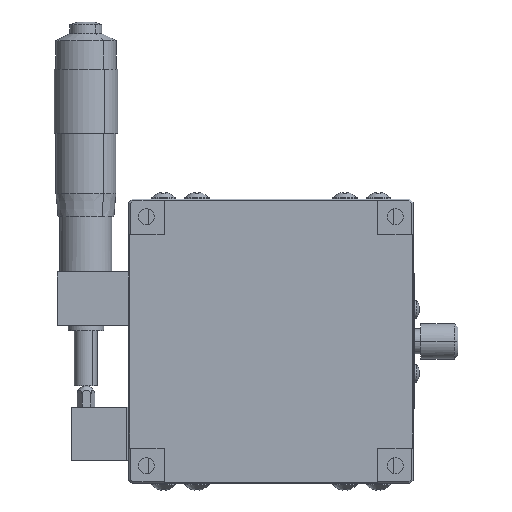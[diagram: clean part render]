
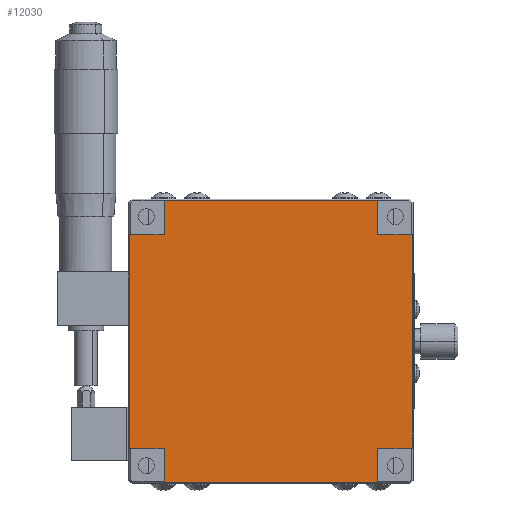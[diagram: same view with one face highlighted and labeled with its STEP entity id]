
A CAD part, front view. The second image highlights one B-rep face of the part: STEP entity #12030.
In plain terms, the highlighted planar face has unit normal (0, -1, 0).
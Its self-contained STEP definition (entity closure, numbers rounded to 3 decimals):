
#3245 = CARTESIAN_POINT ( 'NONE',  ( -20.54, 34.35, 30. ) ) ;
#3247 = CARTESIAN_POINT ( 'NONE',  ( -20.54, 34.35, 39.7 ) ) ;
#3248 = CARTESIAN_POINT ( 'NONE',  ( -20.54, 34.35, -30. ) ) ;
#3250 = CARTESIAN_POINT ( 'NONE',  ( -80.54, 34.35, -39.7 ) ) ;
#3251 = CARTESIAN_POINT ( 'NONE',  ( -20.54, 34.35, -39.7 ) ) ;
#3252 = CARTESIAN_POINT ( 'NONE',  ( -10.84, 34.35, -30. ) ) ;
#3253 = CARTESIAN_POINT ( 'NONE',  ( -10.84, 34.35, 30. ) ) ;
#3254 = CARTESIAN_POINT ( 'NONE',  ( -90.24, 34.35, -30. ) ) ;
#3256 = CARTESIAN_POINT ( 'NONE',  ( -90.24, 34.35, 30. ) ) ;
#3257 = CARTESIAN_POINT ( 'NONE',  ( -80.54, 34.35, 39.7 ) ) ;
#3260 = CARTESIAN_POINT ( 'NONE',  ( -80.54, 34.35, 30. ) ) ;
#3263 = CARTESIAN_POINT ( 'NONE',  ( -80.54, 34.35, -30. ) ) ;
#7106 = VERTEX_POINT ( 'NONE', #3245 ) ;
#7108 = VERTEX_POINT ( 'NONE', #3247 ) ;
#7109 = VERTEX_POINT ( 'NONE', #3248 ) ;
#7111 = VERTEX_POINT ( 'NONE', #3250 ) ;
#7112 = VERTEX_POINT ( 'NONE', #3251 ) ;
#7113 = VERTEX_POINT ( 'NONE', #3252 ) ;
#7114 = VERTEX_POINT ( 'NONE', #3253 ) ;
#7115 = VERTEX_POINT ( 'NONE', #3254 ) ;
#7117 = VERTEX_POINT ( 'NONE', #3256 ) ;
#7118 = VERTEX_POINT ( 'NONE', #3257 ) ;
#7121 = VERTEX_POINT ( 'NONE', #3260 ) ;
#7124 = VERTEX_POINT ( 'NONE', #3263 ) ;
#7469 = ORIENTED_EDGE ( 'NONE', *, *, #12124, .T. ) ;
#7470 = ORIENTED_EDGE ( 'NONE', *, *, #12126, .T. ) ;
#7471 = ORIENTED_EDGE ( 'NONE', *, *, #12094, .T. ) ;
#7472 = ORIENTED_EDGE ( 'NONE', *, *, #12098, .T. ) ;
#7473 = ORIENTED_EDGE ( 'NONE', *, *, #12103, .T. ) ;
#7474 = ORIENTED_EDGE ( 'NONE', *, *, #12109, .T. ) ;
#7475 = ORIENTED_EDGE ( 'NONE', *, *, #12111, .T. ) ;
#7476 = ORIENTED_EDGE ( 'NONE', *, *, #12114, .T. ) ;
#7477 = ORIENTED_EDGE ( 'NONE', *, *, #12117, .T. ) ;
#7478 = ORIENTED_EDGE ( 'NONE', *, *, #12118, .T. ) ;
#7479 = ORIENTED_EDGE ( 'NONE', *, *, #12120, .T. ) ;
#7480 = ORIENTED_EDGE ( 'NONE', *, *, #12123, .T. ) ;
#8016 = EDGE_LOOP ( 'NONE', ( #7469, #7470, #7471, #7472, #7473, #7474, #7475, #7476, #7477, #7478, #7479, #7480 ) ) ;
#9743 = AXIS2_PLACEMENT_3D ( 'NONE', #15227, #15238, #15239 ) ;
#12030 = ADVANCED_FACE ( 'NONE', ( #15235 ), #15236, .T. ) ;
#12094 = EDGE_CURVE ( 'NONE', #7118, #7121, #15338, .T. ) ;
#12098 = EDGE_CURVE ( 'NONE', #7121, #7117, #15367, .T. ) ;
#12103 = EDGE_CURVE ( 'NONE', #7117, #7115, #15359, .T. ) ;
#12109 = EDGE_CURVE ( 'NONE', #7115, #7124, #15371, .T. ) ;
#12111 = EDGE_CURVE ( 'NONE', #7124, #7111, #15385, .T. ) ;
#12114 = EDGE_CURVE ( 'NONE', #7111, #7112, #15377, .T. ) ;
#12117 = EDGE_CURVE ( 'NONE', #7112, #7109, #15389, .T. ) ;
#12118 = EDGE_CURVE ( 'NONE', #7109, #7113, #15403, .T. ) ;
#12120 = EDGE_CURVE ( 'NONE', #7113, #7114, #15395, .T. ) ;
#12123 = EDGE_CURVE ( 'NONE', #7114, #7106, #15407, .T. ) ;
#12124 = EDGE_CURVE ( 'NONE', #7106, #7108, #15419, .T. ) ;
#12126 = EDGE_CURVE ( 'NONE', #7108, #7118, #15425, .T. ) ;
#14543 = VECTOR ( 'NONE', #15364, 1000. ) ;
#14548 = VECTOR ( 'NONE', #15375, 1000. ) ;
#14549 = VECTOR ( 'NONE', #15369, 1000. ) ;
#14553 = VECTOR ( 'NONE', #15384, 1000. ) ;
#14554 = VECTOR ( 'NONE', #15393, 1000. ) ;
#14555 = VECTOR ( 'NONE', #15387, 1000. ) ;
#14559 = VECTOR ( 'NONE', #15402, 1000. ) ;
#14560 = VECTOR ( 'NONE', #15411, 1000. ) ;
#14561 = VECTOR ( 'NONE', #15405, 1000. ) ;
#14565 = VECTOR ( 'NONE', #15418, 1000. ) ;
#14567 = VECTOR ( 'NONE', #15421, 1000. ) ;
#14569 = VECTOR ( 'NONE', #15427, 1000. ) ;
#15227 = CARTESIAN_POINT ( 'NONE',  ( -80.54, 34.35, 48.508 ) ) ;
#15235 = FACE_OUTER_BOUND ( 'NONE', #8016, .T. ) ;
#15236 = PLANE ( 'NONE',  #9743 ) ;
#15238 = DIRECTION ( 'NONE',  ( 0., -1., 0. ) ) ;
#15239 = DIRECTION ( 'NONE',  ( 0., 0., -1. ) ) ;
#15338 = LINE ( 'NONE', #15362, #14543 ) ;
#15359 = LINE ( 'NONE', #15374, #14548 ) ;
#15362 = CARTESIAN_POINT ( 'NONE',  ( -80.54, 34.35, 48.508 ) ) ;
#15364 = DIRECTION ( 'NONE',  ( 0., 0., -1. ) ) ;
#15367 = LINE ( 'NONE', #15368, #14549 ) ;
#15368 = CARTESIAN_POINT ( 'NONE',  ( -80.54, 34.35, 30. ) ) ;
#15369 = DIRECTION ( 'NONE',  ( -1., 0., 0. ) ) ;
#15371 = LINE ( 'NONE', #15383, #14553 ) ;
#15374 = CARTESIAN_POINT ( 'NONE',  ( -90.24, 34.35, 48.508 ) ) ;
#15375 = DIRECTION ( 'NONE',  ( 0., 0., -1. ) ) ;
#15377 = LINE ( 'NONE', #15392, #14554 ) ;
#15383 = CARTESIAN_POINT ( 'NONE',  ( -80.54, 34.35, -30. ) ) ;
#15384 = DIRECTION ( 'NONE',  ( 1., 0., 0. ) ) ;
#15385 = LINE ( 'NONE', #15386, #14555 ) ;
#15386 = CARTESIAN_POINT ( 'NONE',  ( -80.54, 34.35, 48.508 ) ) ;
#15387 = DIRECTION ( 'NONE',  ( 0., 0., -1. ) ) ;
#15389 = LINE ( 'NONE', #15401, #14559 ) ;
#15392 = CARTESIAN_POINT ( 'NONE',  ( -80.54, 34.35, -39.7 ) ) ;
#15393 = DIRECTION ( 'NONE',  ( 1., 0., 0. ) ) ;
#15395 = LINE ( 'NONE', #15410, #14560 ) ;
#15401 = CARTESIAN_POINT ( 'NONE',  ( -20.54, 34.35, 48.508 ) ) ;
#15402 = DIRECTION ( 'NONE',  ( 0., 0., 1. ) ) ;
#15403 = LINE ( 'NONE', #15404, #14561 ) ;
#15404 = CARTESIAN_POINT ( 'NONE',  ( -80.54, 34.35, -30. ) ) ;
#15405 = DIRECTION ( 'NONE',  ( 1., 0., 0. ) ) ;
#15407 = LINE ( 'NONE', #15417, #14565 ) ;
#15410 = CARTESIAN_POINT ( 'NONE',  ( -10.84, 34.35, 48.508 ) ) ;
#15411 = DIRECTION ( 'NONE',  ( 0., 0., 1. ) ) ;
#15417 = CARTESIAN_POINT ( 'NONE',  ( -80.54, 34.35, 30. ) ) ;
#15418 = DIRECTION ( 'NONE',  ( -1., 0., 0. ) ) ;
#15419 = LINE ( 'NONE', #15420, #14567 ) ;
#15420 = CARTESIAN_POINT ( 'NONE',  ( -20.54, 34.35, 48.508 ) ) ;
#15421 = DIRECTION ( 'NONE',  ( 0., 0., 1. ) ) ;
#15425 = LINE ( 'NONE', #15426, #14569 ) ;
#15426 = CARTESIAN_POINT ( 'NONE',  ( -80.54, 34.35, 39.7 ) ) ;
#15427 = DIRECTION ( 'NONE',  ( -1., 0., 0. ) ) ;
